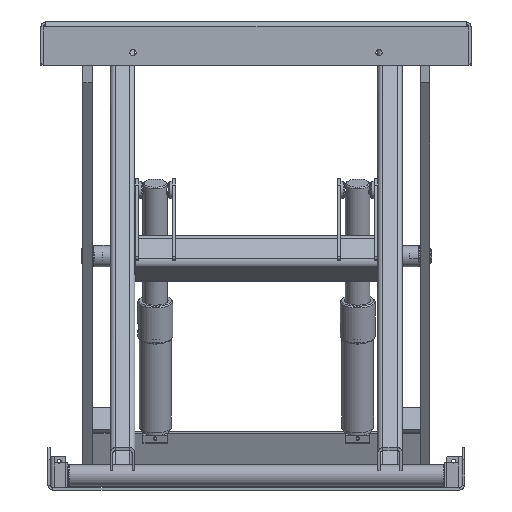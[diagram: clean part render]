
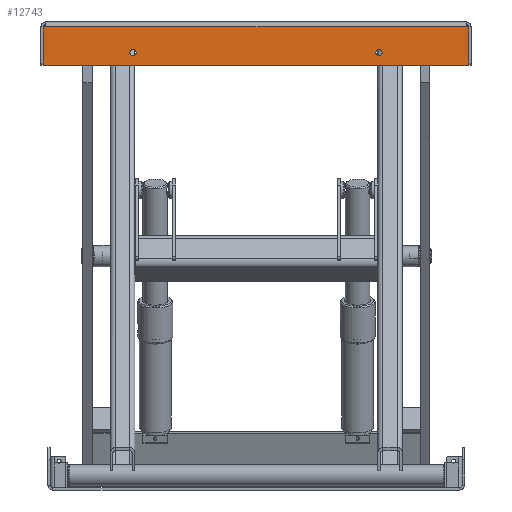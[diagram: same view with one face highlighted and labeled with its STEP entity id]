
A CAD part, left-side view. The second image highlights one B-rep face of the part: STEP entity #12743.
In plain terms, the highlighted planar face has unit normal (-1, 0, 0) as drawn and (1, 0, 0) by its records, which use the part's own axes.
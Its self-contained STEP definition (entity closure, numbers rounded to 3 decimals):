
#774=FACE_BOUND('',#2713,.T.);
#775=FACE_BOUND('',#2714,.T.);
#1186=PLANE('',#14286);
#1822=FACE_OUTER_BOUND('',#2712,.T.);
#2712=EDGE_LOOP('',(#11045,#11046,#11047,#11048,#11049,#11050,#11051,#11052));
#2713=EDGE_LOOP('',(#11053));
#2714=EDGE_LOOP('',(#11054));
#3579=LINE('',#20768,#4644);
#3897=LINE('',#21548,#4962);
#3899=LINE('',#21556,#4964);
#3901=LINE('',#21559,#4966);
#3906=LINE('',#21570,#4971);
#3908=LINE('',#21573,#4973);
#4644=VECTOR('',#16764,10.);
#4962=VECTOR('',#17496,10.);
#4964=VECTOR('',#17504,10.);
#4966=VECTOR('',#17508,10.);
#4971=VECTOR('',#17523,10.);
#4973=VECTOR('',#17527,10.);
#5477=CIRCLE('',#14062,2.);
#5482=CIRCLE('',#14070,2.);
#5537=CIRCLE('',#14255,5.);
#5539=CIRCLE('',#14259,5.);
#6300=VERTEX_POINT('',#20740);
#6301=VERTEX_POINT('',#20741);
#6312=VERTEX_POINT('',#20767);
#6313=VERTEX_POINT('',#20771);
#6556=VERTEX_POINT('',#21503);
#6558=VERTEX_POINT('',#21509);
#6566=VERTEX_POINT('',#21546);
#6567=VERTEX_POINT('',#21547);
#6570=VERTEX_POINT('',#21555);
#6571=VERTEX_POINT('',#21569);
#7731=EDGE_CURVE('',#6300,#6301,#5477,.T.);
#7744=EDGE_CURVE('',#6301,#6312,#3579,.T.);
#7746=EDGE_CURVE('',#6312,#6313,#5482,.T.);
#8105=EDGE_CURVE('',#6556,#6556,#5537,.T.);
#8107=EDGE_CURVE('',#6558,#6558,#5539,.T.);
#8125=EDGE_CURVE('',#6566,#6567,#3897,.T.);
#8129=EDGE_CURVE('',#6313,#6570,#3899,.T.);
#8131=EDGE_CURVE('',#6570,#6567,#3901,.T.);
#8138=EDGE_CURVE('',#6566,#6571,#3906,.T.);
#8140=EDGE_CURVE('',#6571,#6300,#3908,.T.);
#11045=ORIENTED_EDGE('',*,*,#7731,.F.);
#11046=ORIENTED_EDGE('',*,*,#8140,.F.);
#11047=ORIENTED_EDGE('',*,*,#8138,.F.);
#11048=ORIENTED_EDGE('',*,*,#8125,.T.);
#11049=ORIENTED_EDGE('',*,*,#8131,.F.);
#11050=ORIENTED_EDGE('',*,*,#8129,.F.);
#11051=ORIENTED_EDGE('',*,*,#7746,.F.);
#11052=ORIENTED_EDGE('',*,*,#7744,.F.);
#11053=ORIENTED_EDGE('',*,*,#8105,.T.);
#11054=ORIENTED_EDGE('',*,*,#8107,.T.);
#12743=ADVANCED_FACE('',(#1822,#774,#775),#1186,.F.);
#14062=AXIS2_PLACEMENT_3D('',#20742,#16742,#16743);
#14070=AXIS2_PLACEMENT_3D('',#20772,#16768,#16769);
#14255=AXIS2_PLACEMENT_3D('',#21504,#17442,#17443);
#14259=AXIS2_PLACEMENT_3D('',#21510,#17450,#17451);
#14286=AXIS2_PLACEMENT_3D('',#21574,#17528,#17529);
#16742=DIRECTION('center_axis',(-1.,0.,0.));
#16743=DIRECTION('ref_axis',(0.,-0.707,0.707));
#16764=DIRECTION('',(0.,1.,0.));
#16768=DIRECTION('center_axis',(-1.,0.,0.));
#16769=DIRECTION('ref_axis',(0.,0.707,0.707));
#17442=DIRECTION('center_axis',(-1.,0.,0.));
#17443=DIRECTION('ref_axis',(0.,0.,
-1.));
#17450=DIRECTION('center_axis',(-1.,0.,0.));
#17451=DIRECTION('ref_axis',(0.,0.,
-1.));
#17496=DIRECTION('',(0.,1.,0.));
#17504=DIRECTION('',(0.,0.,-1.));
#17508=DIRECTION('',(0.,-1.,0.));
#17523=DIRECTION('',(0.,-1.,0.));
#17527=DIRECTION('',(0.,0.,1.));
#17528=DIRECTION('center_axis',(-1.,0.,0.));
#17529=DIRECTION('ref_axis',(0.,0.,
1.));
#20740=CARTESIAN_POINT('',(450.,-345.929,68.));
#20741=CARTESIAN_POINT('',(450.,-343.929,70.));
#20742=CARTESIAN_POINT('Origin',(450.,-343.929,68.));
#20767=CARTESIAN_POINT('',(450.,343.929,70.));
#20768=CARTESIAN_POINT('',(450.,-345.929,70.));
#20771=CARTESIAN_POINT('',(450.,345.929,68.));
#20772=CARTESIAN_POINT('Origin',(450.,343.929,68.));
#21503=CARTESIAN_POINT('',(450.,200.,45.));
#21504=CARTESIAN_POINT('Origin',(450.,200.,50.));
#21509=CARTESIAN_POINT('',(450.,-200.,45.));
#21510=CARTESIAN_POINT('Origin',(450.,-200.,50.));
#21546=CARTESIAN_POINT('',(450.,-342.,8.));
#21547=CARTESIAN_POINT('',(450.,342.,8.));
#21548=CARTESIAN_POINT('',(450.,0.,8.));
#21555=CARTESIAN_POINT('',(450.,345.929,8.));
#21556=CARTESIAN_POINT('',(450.,345.929,8.));
#21559=CARTESIAN_POINT('',(450.,342.,8.));
#21569=CARTESIAN_POINT('',(450.,-345.929,8.));
#21570=CARTESIAN_POINT('',(450.,-342.,8.));
#21573=CARTESIAN_POINT('',(450.,-345.929,8.));
#21574=CARTESIAN_POINT('Origin',(450.,0.,34.958));
